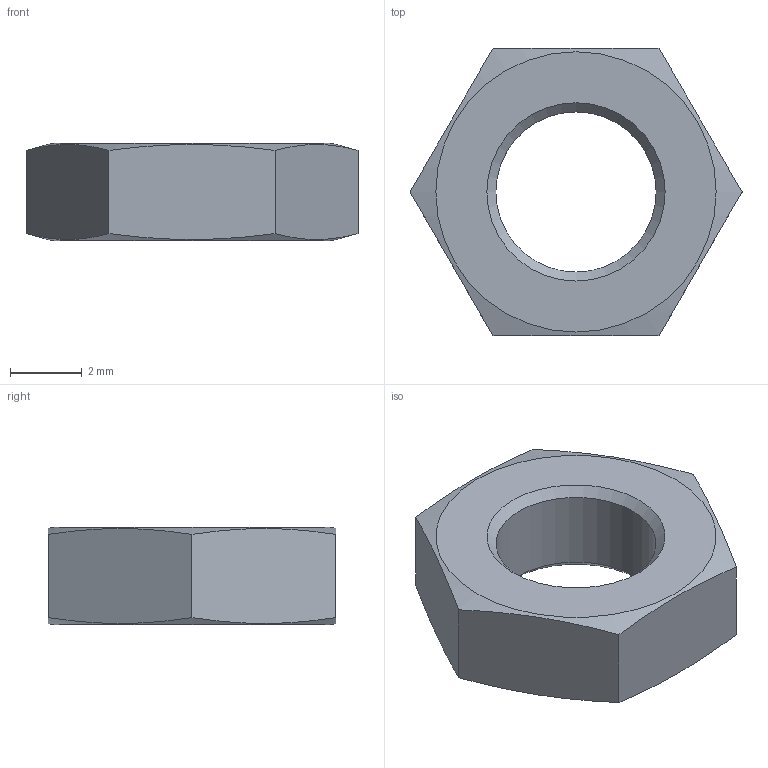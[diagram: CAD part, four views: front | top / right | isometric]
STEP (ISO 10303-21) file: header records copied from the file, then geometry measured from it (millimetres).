
FILE_DESCRIPTION( ( 'STEP AP214' ), '1' );
FILE_NAME( 'N:/Engineering/CAD_Solid/Wirbelstrom/Wirbelstromsensoren/Muttern/Mutter_DIN439_M5x0,5.stp', '2011-12-15T12:04:16', ( ' ' ), ( ' ' ), 'XStep 1.0', ' ', ' ' );
FILE_SCHEMA( ( 'CONFIG_CONTROL_DESIGN) ( )' ) );
Length unit declared in the file: metre
Products named in the file (1): 1
Bounding box: 9.24 x 8 x 2.7 mm (x, y, z)
Volume: 105.7 mm3; surface area: 184.2 mm2
Topology: 1 solids, 1 shells, 13 faces, 29 edges, 18 vertices
Faces by surface type: plane 8, cone 4, cylinder 1
Full cylindrical faces by diameter (mm): 4.459 x1
Entity records: 492 total; most frequent: CARTESIAN_POINT 116, ORIENTED_EDGE 48, DIRECTION 46, EDGE_CURVE 24, AXIS2_PLACEMENT_3D 20, EDGE_LOOP 20, VERTEX_POINT 18, FACE_OUTER_BOUND 14
